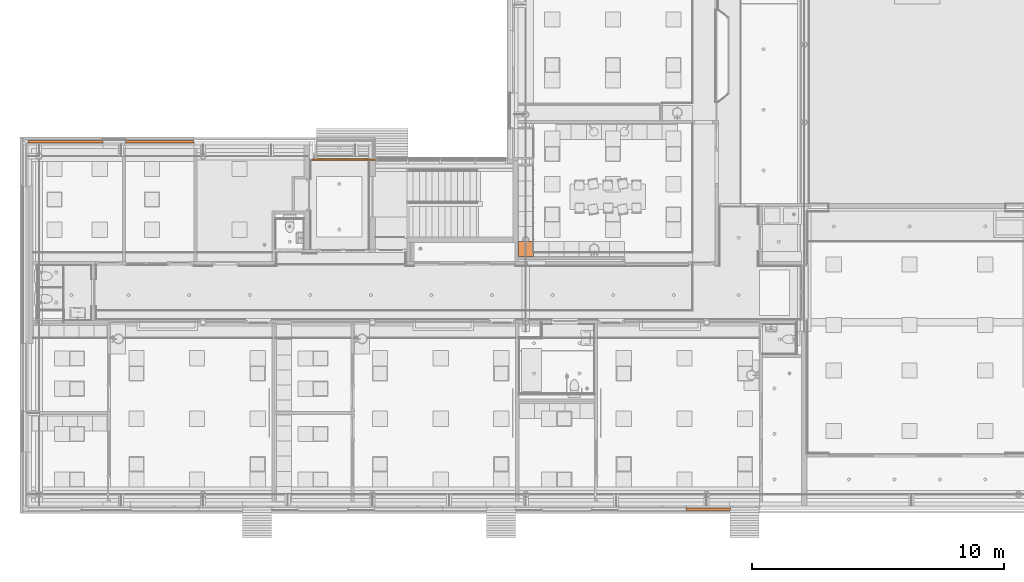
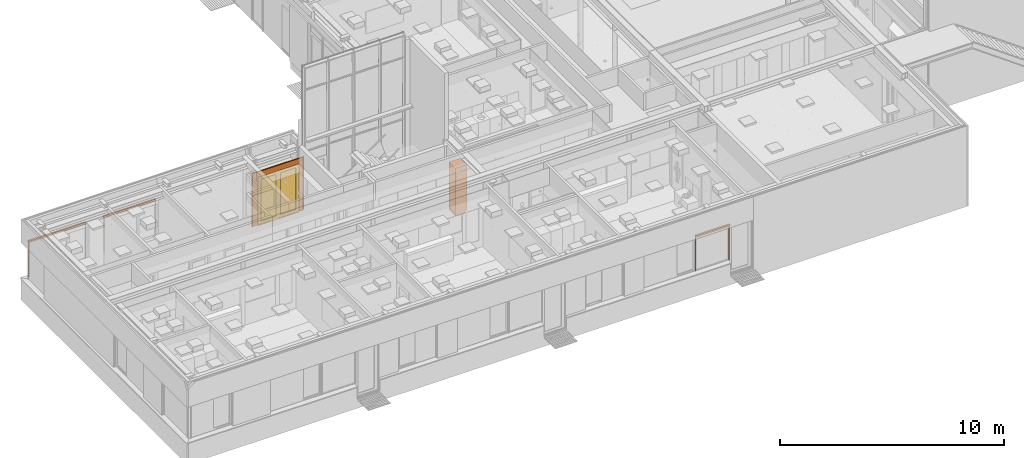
# One storey, part 339 of 347: 5 proxies, 1 door, 1 opening.
"""IFC2X3 building model written with IfcOpenShell, lengths in millimetres."""

import ifcopenshell
import ifcopenshell.guid

model = None  # the IFC model being written
_history = None  # IfcOwnerHistory: only IFC2X3 demands one
_inside = {}  # id of a spatial element -> (the spatial element, [elements in it])
_under = {}  # id of a project, library or spatial element -> (it, [spatial elements below it])
_declared = {}  # id of a project -> (the project, [libraries it declares])
_typed = {}  # id of a type object -> (the type object, [elements of that type])
_made_of = {}  # id of a material, layer set ... -> (it, [elements and type objects made of it])


def new_model(schema):
    """Start an empty IFC model of exactly this schema.

    Asked for "IFC4X3", IfcOpenShell would pick the latest addendum, in which some entities
    have other attributes; the version numbers below select the first issue.
    IFC2X3 requires an IfcOwnerHistory on every rooted entity: one is made here for all.
    """
    global model, _history
    if schema == "IFC4X3":
        model = ifcopenshell.file(schema_version=(4, 3, 0, 0))
    else:
        model = ifcopenshell.file(schema=schema)
    _inside.clear()
    _under.clear()
    _declared.clear()
    _typed.clear()
    _made_of.clear()
    _history = None
    if model.schema == "IFC2X3":
        org = make("IfcOrganization", Name="unknown")
        user = make(
            "IfcPersonAndOrganization",
            ThePerson=make("IfcPerson", FamilyName="unknown"),
            TheOrganization=org,
        )
        app = make(
            "IfcApplication",
            ApplicationDeveloper=org,
            Version="unknown",
            ApplicationFullName="unknown",
            ApplicationIdentifier="unknown",
        )
        _history = make(
            "IfcOwnerHistory",
            OwningUser=user,
            OwningApplication=app,
            ChangeAction="ADDED",
            CreationDate=0,
        )
    return model


def make(cls, **values):
    """One entity of the class cls with the attributes given. An attribute that is None is left unset."""
    return model.create_entity(
        cls, **{name: value for name, value in values.items() if value is not None}
    )


def entity(cls, *values):
    """Any entity or typed value of the class cls, its attributes in the order of the schema. None: left unset."""
    e = model.create_entity(cls)
    for i, value in enumerate(values):
        if value is not None:
            e[i] = value
    return e


def rooted(cls, **values):
    """An entity with a GlobalId (a new one), such as an element, a storey or a relation."""
    return make(cls, GlobalId=ifcopenshell.guid.new(), OwnerHistory=_history, **values)


def si_unit(unit_type, name, prefix=None):
    """IfcSIUnit, for example si_unit("LENGTHUNIT", "METRE", prefix="MILLI")."""
    return make("IfcSIUnit", UnitType=unit_type, Prefix=prefix, Name=name)


def converted_unit(unit_type, name, factor, base, dimensions=None, offset=None):
    """IfcConversionBasedUnit, such as the inch: factor (a typed value) times the base unit."""
    return make(
        "IfcConversionBasedUnit"
        if offset is None
        else "IfcConversionBasedUnitWithOffset",
        ConversionOffset=offset,
        Dimensions=None
        if dimensions is None
        else entity("IfcDimensionalExponents", *dimensions),
        UnitType=unit_type,
        Name=name,
        ConversionFactor=make(
            "IfcMeasureWithUnit", ValueComponent=factor, UnitComponent=base
        ),
    )


def derived_unit(unit_type, elements):
    """IfcDerivedUnit: a product of units, each with its exponent."""
    return make(
        "IfcDerivedUnit",
        Elements=[
            make("IfcDerivedUnitElement", Unit=unit, Exponent=power)
            for unit, power in elements
        ],
        UnitType=unit_type,
    )


def money_unit(currency):
    """IfcMonetaryUnit."""
    return make("IfcMonetaryUnit", Currency=currency)


def assignment(units):
    """IfcUnitAssignment: the units of a project."""
    return None if units is None else make("IfcUnitAssignment", Units=units)


def point(xyz):
    """IfcCartesianPoint."""
    return None if xyz is None else make("IfcCartesianPoint", Coordinates=xyz)


def direction(xyz):
    """IfcDirection."""
    return None if xyz is None else make("IfcDirection", DirectionRatios=xyz)


def frame(location, z_axis=None, x_axis=None):
    """IfcAxis2Placement3D, a coordinate frame: its origin and axes. An axis left out is left unset."""
    return make(
        "IfcAxis2Placement3D",
        Location=point(location),
        Axis=direction(z_axis),
        RefDirection=direction(x_axis),
    )


def origin_with_axes():
    """The frame at (0, 0, 0) with the z axis (0, 0, 1) and the x axis (1, 0, 0) written out."""
    return frame((0.0, 0.0, 0.0), z_axis=(0.0, 0.0, 1.0), x_axis=(1.0, 0.0, 0.0))


def place(relative_to, where):
    """IfcLocalPlacement: puts the frame where relative to a parent placement (None: the world)."""
    return make(
        "IfcLocalPlacement", PlacementRelTo=relative_to, RelativePlacement=where
    )


def context(
    kind, dimensions, precision=None, world=None, true_north=None, identifier=None
):
    """IfcGeometricRepresentationContext, for example the 3D "Model" context."""
    return make(
        "IfcGeometricRepresentationContext",
        ContextIdentifier=identifier,
        ContextType=kind,
        CoordinateSpaceDimension=dimensions,
        Precision=precision,
        WorldCoordinateSystem=world,
        TrueNorth=true_north,
    )


def subcontext(parent, identifier, kind, view, scale=None):
    """IfcGeometricRepresentationSubContext, for example "Body" below "Model"."""
    return make(
        "IfcGeometricRepresentationSubContext",
        ContextIdentifier=identifier,
        ContextType=kind,
        ParentContext=parent,
        TargetScale=scale,
        TargetView=view,
    )


def project(units=None, contexts=None):
    """IfcProject with its units and contexts."""
    return rooted(
        "IfcProject",
        Name="project",
        RepresentationContexts=contexts,
        UnitsInContext=assignment(units),
    )


def spatial(cls, under=None, at=None, **own):
    """A site, building, storey or space (cls), placed at a placement, below another one or the project."""
    s = rooted(cls, ObjectPlacement=at, **own)
    if under is not None:
        _under.setdefault(under.id(), (under, []))[1].append(s)
    return s


def faces_of(points, faces, orient=None, outer=None):
    """IfcFace entities. A face is a list of loops; a loop is a list of indices into points, from 0.

    orient and outer hold one flag for each loop. By default every Orientation is true, the
    first loop of a face is its IfcFaceOuterBound and the others are IfcFaceBound.
    """
    made = []
    for i, loops in enumerate(faces):
        bounds = []
        for j, loop in enumerate(loops):
            is_outer = j == 0 if outer is None else outer[i][j]
            bounds.append(
                make(
                    "IfcFaceOuterBound" if is_outer else "IfcFaceBound",
                    Bound=make("IfcPolyLoop", Polygon=[points[k] for k in loop]),
                    Orientation=True if orient is None else orient[i][j],
                )
            )
        made.append(make("IfcFace", Bounds=bounds))
    return made


def open_shell(faces, orient=None, outer=None):
    """The faces of one IfcOpenShell. surface_model builds it on its shared points."""
    return ("IfcOpenShell", faces, orient, outer)


def faceted_brep(points, faces, orient=None, outer=None, voids=None):
    """IfcFacetedBrep: a solid bounded by flat faces; with voids (closed shells), ...WithVoids."""
    shared = [point(p) for p in points]
    hull = make("IfcClosedShell", CfsFaces=faces_of(shared, faces, orient, outer))
    if voids is None:
        return make("IfcFacetedBrep", Outer=hull)
    return make(
        "IfcFacetedBrepWithVoids",
        Outer=hull,
        Voids=[
            make(cls, CfsFaces=faces_of(shared, fs, o, b)) for cls, fs, o, b in voids
        ],
    )


def surface_model(cls, points, shells):
    """IfcFaceBasedSurfaceModel or IfcShellBasedSurfaceModel (cls): surfaces that need not close."""
    shared = [point(p) for p in points]
    made = [make(c, CfsFaces=faces_of(shared, fs, o, b)) for c, fs, o, b in shells]
    if cls == "IfcFaceBasedSurfaceModel":
        return make(cls, FbsmFaces=made)
    return make(cls, SbsmBoundary=made)


def shape(context_of_items, identifier, shape_type, items):
    """IfcShapeRepresentation: the items that make up one representation, for example the "Body"."""
    return make(
        "IfcShapeRepresentation",
        ContextOfItems=context_of_items,
        RepresentationIdentifier=identifier,
        RepresentationType=shape_type,
        Items=items,
    )


def material(Name=None, Category=None):
    """IfcMaterial."""
    return make("IfcMaterial", Name=Name, Category=Category)


def made_of(thing, what):
    """Note that an element or type object is made of a material, layer set ...; save() writes the relation."""
    if what is not None:
        _made_of.setdefault(what.id(), (what, []))[1].append(thing)
    return thing


def type_object(cls, material=None, **own):
    """A type object (cls), such as IfcWallType, which elements share."""
    return made_of(rooted(cls, **own), material)


def element(
    cls,
    number,
    at=None,
    inside=None,
    cuts=None,
    type_object=None,
    material=None,
    context=None,
    identifier="Body",
    shape_type=None,
    held_by="IfcProductDefinitionShape",
    body=None,
    shapes=None,
    **own,
):
    """One element of the class cls, such as IfcWall. Its Tag is "e" and its number.

    at: its placement. inside: the storey or other place that contains it. cuts: it is an
    opening in that element (IfcRelVoidsElement). A single representation is given by context,
    identifier, shape_type and body (its items); several are given by shapes. held_by: the class
    of the entity that holds the representations. save() writes the other relations.
    """
    e = rooted(cls, Tag="e%d" % number, ObjectPlacement=at, **own)
    if body is not None:
        shapes = [shape(context, identifier, shape_type, body)]
    if shapes is not None:
        e.Representation = make(held_by, Representations=shapes)
    if inside is not None:
        _inside.setdefault(inside.id(), (inside, []))[1].append(e)
    if cuts is not None:
        rooted(
            "IfcRelVoidsElement", RelatingBuildingElement=cuts, RelatedOpeningElement=e
        )
    if type_object is not None:
        _typed.setdefault(type_object.id(), (type_object, []))[1].append(e)
    return made_of(e, material)


def fill(opening, filler):
    """IfcRelFillsElement: the door or window that sits in an opening."""
    return rooted(
        "IfcRelFillsElement",
        RelatingOpeningElement=opening,
        RelatedBuildingElement=filler,
    )


def aggregate(whole, parts):
    """IfcRelAggregates: a whole, such as a stair, and the parts it consists of."""
    return rooted("IfcRelAggregates", RelatingObject=whole, RelatedObjects=parts)


def save(model, path):
    """Write the relations noted so far, then the file.

    IfcRelAggregates (storeys below a building ...), IfcRelContainedInSpatialStructure (elements
    in a storey), IfcRelDefinesByType, IfcRelAssociatesMaterial and IfcRelDeclares: one each for
    every whole, place, type object, material and project.
    """
    for whole, parts in _under.values():
        aggregate(whole, parts)
    for where, things in _inside.values():
        rooted(
            "IfcRelContainedInSpatialStructure",
            RelatedElements=things,
            RelatingStructure=where,
        )
    for kind, things in _typed.values():
        rooted("IfcRelDefinesByType", RelatedObjects=things, RelatingType=kind)
    for what, things in _made_of.values():
        rooted("IfcRelAssociatesMaterial", RelatedObjects=things, RelatingMaterial=what)
    for by, libraries in _declared.values():
        rooted("IfcRelDeclares", RelatingContext=by, RelatedDefinitions=libraries)
    model.write(path)


model = new_model("IFC2X3")

# Units and contexts
model_context = context("Model", 3, precision=0.01, world=origin_with_axes(), true_north=direction((0.0, 1.0)))
plan_context = context("Plan", 3, precision=0.01, world=origin_with_axes(), true_north=direction((0.0, 1.0)))
body_context = subcontext(model_context, "Body", "Model", "MODEL_VIEW")
ifc_project = project(units=[si_unit("LENGTHUNIT", "METRE", prefix="MILLI"), si_unit("AREAUNIT", "SQUARE_METRE"), si_unit("VOLUMEUNIT", "CUBIC_METRE"), converted_unit("PLANEANGLEUNIT", "DEGREE", entity("IfcPlaneAngleMeasure", 0.0174532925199), si_unit("PLANEANGLEUNIT", "RADIAN"), dimensions=[0, 0, 0, 0, 0, 0, 0]), money_unit("EUR"), converted_unit("TIMEUNIT", "Year", entity("IfcTimeMeasure", 31556926.0), si_unit("TIMEUNIT", "SECOND"), dimensions=[0, 0, 1, 0, 0, 0, 0]), si_unit("MASSUNIT", "GRAM", prefix="KILO"), si_unit("THERMODYNAMICTEMPERATUREUNIT", "DEGREE_CELSIUS"), si_unit("LUMINOUSINTENSITYUNIT", "LUMEN"), si_unit("ENERGYUNIT", "JOULE", prefix="MEGA"), derived_unit("THERMALCONDUCTANCEUNIT", [(si_unit("POWERUNIT", "WATT"), 1), (si_unit("LENGTHUNIT", "METRE"), -1), (si_unit("THERMODYNAMICTEMPERATUREUNIT", "KELVIN"), -1)]), derived_unit("SPECIFICHEATCAPACITYUNIT", [(si_unit("ENERGYUNIT", "JOULE"), 1), (si_unit("MASSUNIT", "GRAM", prefix="KILO"), -1), (si_unit("THERMODYNAMICTEMPERATUREUNIT", "KELVIN"), -1)]), derived_unit("MASSDENSITYUNIT", [(si_unit("MASSUNIT", "GRAM", prefix="KILO"), 1), (si_unit("VOLUMEUNIT", "CUBIC_METRE"), -1)])], contexts=[model_context, plan_context])

# Site, building, storey
site_placement = place(None, origin_with_axes())
site = spatial("IfcSite", under=ifc_project, at=site_placement, Name="Site", CompositionType="ELEMENT")
building_placement = place(site_placement, origin_with_axes())
building = spatial("IfcBuilding", under=site, at=building_placement, Name="Naam gebouw", CompositionType="ELEMENT")
storey_placement = place(building_placement, origin_with_axes())
storey = spatial("IfcBuildingStorey", under=building, at=storey_placement, Name="begane grond", CompositionType="ELEMENT", Elevation=0.0)

# Proxy
building_element_proxy_type_1 = type_object("IfcBuildingElementProxyType", Name="Onderkast recht 25", PredefinedType="NOTDEFINED")
proxy_1_placement = place(storey_placement, frame((24295.0, 14725.0, 0.0), z_axis=(0.0, 0.0, 1.0), x_axis=(0.0, 1.0, 0.0)))
element("IfcBuildingElementProxy", 1, at=proxy_1_placement, inside=storey, type_object=building_element_proxy_type_1, Name="_73 pantryblok", context=body_context, shape_type="Brep", body=[
    faceted_brep([(0.0, -492.0, 2.0), (590.0, -492.0, 2.0), (590.0, -492.0, 100.0), (0.0, -492.0, 100.0), (590.0, 0.0, 2.0), (0.0, 0.0, 2.0), (590.0, 0.0, 100.0), (0.0, 0.0, 100.0)], [[[0, 1, 2, 3]], [[4, 1, 0, 5]], [[1, 4, 6, 2]], [[7, 3, 2, 6]], [[5, 0, 3, 7]], [[4, 5, 7, 6]]]),
    faceted_brep([(0.999999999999, -572.0, 101.0), (589.0, -572.0, 101.0), (589.0, -590.0, 101.0), (0.999999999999, -590.0, 101.0), (0.999999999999, -572.0, 2599.0), (589.0, -572.0, 2599.0), (589.0, -590.0, 2599.0), (0.999999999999, -590.0, 2599.0)], [[[0, 1, 2, 3]], [[0, 4, 5, 1]], [[1, 5, 6, 2]], [[3, 2, 6, 7]], [[4, 0, 3, 7]], [[5, 4, 7, 6]]]),
    faceted_brep([(18.0, -572.0, 100.0), (572.0, -572.0, 100.0), (572.0, -572.0, 118.0), (18.0, -572.0, 118.0), (18.0, 0.0, 100.0), (572.0, 0.0, 100.0), (572.0, 0.0, 118.0), (18.0, 0.0, 118.0)], [[[0, 1, 2, 3]], [[0, 4, 5, 1]], [[1, 5, 6, 2]], [[3, 2, 6, 7]], [[4, 0, 3, 7]], [[5, 4, 7, 6]]]),
    faceted_brep([(18.0, -572.0, 2582.0), (572.0, -572.0, 2582.0), (572.0, -572.0, 2600.0), (18.0, -572.0, 2600.0), (18.0, 0.0, 2582.0), (572.0, 0.0, 2582.0), (572.0, 0.0, 2600.0), (18.0, 0.0, 2600.0)], [[[0, 1, 2, 3]], [[0, 4, 5, 1]], [[1, 5, 6, 2]], [[3, 2, 6, 7]], [[4, 0, 3, 7]], [[5, 4, 7, 6]]]),
    faceted_brep([(0.0, 0.0, 100.0), (0.0, -572.0, 100.0), (0.0, -572.0, 2600.0), (0.0, 0.0, 2600.0), (18.0, 0.0, 100.0), (18.0, -572.0, 100.0), (18.0, -572.0, 2600.0), (18.0, 0.0, 2600.0)], [[[0, 1, 2, 3]], [[0, 4, 5, 1]], [[1, 5, 6, 2]], [[3, 2, 6, 7]], [[4, 0, 3, 7]], [[5, 4, 7, 6]]]),
    faceted_brep([(590.0, -572.0, 100.0), (590.0, 0.0, 100.0), (590.0, 0.0, 2600.0), (590.0, -572.0, 2600.0), (572.0, -572.0, 100.0), (572.0, 0.0, 100.0), (572.0, 0.0, 2600.0), (572.0, -572.0, 2600.0)], [[[0, 1, 2, 3]], [[0, 4, 5, 1]], [[1, 5, 6, 2]], [[3, 2, 6, 7]], [[4, 0, 3, 7]], [[5, 4, 7, 6]]]),
    faceted_brep([(572.0, -9.0, 118.0), (18.0, -9.0, 118.0), (18.0, -9.0, 2582.0), (572.0, -9.0, 2582.0), (572.0, -18.0, 118.0), (18.0, -18.0, 118.0), (18.0, -18.0, 2582.0), (572.0, -18.0, 2582.0)], [[[0, 1, 2, 3]], [[0, 4, 5, 1]], [[1, 5, 6, 2]], [[3, 2, 6, 7]], [[4, 0, 3, 7]], [[5, 4, 7, 6]]]),
])

# Proxy, opening, door
ifc_material = material(Name="ALG - BUITENAFWERKING")
building_element_proxy_type_2 = type_object("IfcBuildingElementProxyType", Name="ALG - BUITENAFWERKING 60", PredefinedType="NOTDEFINED")
proxy_2_placement = place(storey_placement, frame((15795.0, 18593.0000009, 0.0), z_axis=(0.0, 0.0, 1.0), x_axis=(1.0, -5.94636992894e-10, 0.0)))
proxy_2 = element("IfcBuildingElementProxy", 2, at=proxy_2_placement, inside=storey, type_object=building_element_proxy_type_2, material=ifc_material, Name="42_53 wandtegels keramisch", context=body_context, shape_type="Brep", body=[
    faceted_brep([(500.000065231, 2.97319502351e-07, 2600.0), (500.000065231, 2.97319502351e-07, 0.0), (210.0, 1.24874333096e-07, 0.0), (210.0, 1.24874333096e-07, 2900.0), (2844.99999903, 1.69174185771e-06, 2900.0), (2844.99999903, 1.69174185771e-06, 0.0), (2619.99999996, 1.55795021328e-06, 0.0), (2619.99999996, 1.55795021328e-06, 2600.0), (500.000065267, -59.9999997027, 2600.0), (500.000065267, -59.9999997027, 0.0), (210.000000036, -59.9999998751, 0.0), (210.000000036, -59.9999998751, 2900.0), (2830.00000004, -59.9999983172, 2900.0), (2830.00000003, -42.9999993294, 2900.0), (2844.99999906, -42.9999993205, 2900.0), (2844.99999906, -42.9999993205, 0.0), (2620.0, -59.999998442, 0.0), (2830.00000003, -42.9999993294, 0.0), (2830.00000004, -59.9999983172, 0.0), (2620.0, -59.999998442, 2600.0)], [[[0, 1, 2, 3, 4, 5, 6, 7]], [[1, 0, 8, 9]], [[1, 9, 10, 2]], [[10, 11, 3, 2]], [[4, 3, 11, 12, 13, 14]], [[5, 4, 14, 15]], [[16, 6, 5, 15, 17, 18]], [[7, 6, 16, 19]], [[0, 7, 19, 8]], [[19, 16, 18, 12, 11, 10, 9, 8]], [[13, 12, 18, 17]], [[14, 13, 17, 15]]]),
    faceted_brep([(2881.99999997, 1.71374381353e-06, 2900.0), (2864.99999881, 1.70363634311e-06, 2900.0), (2864.99999883, -42.9999993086, 2900.0), (2880.00000107, -42.9999992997, 2900.0), (2880.00000108, -59.9999982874, 2900.0), (2882.00000001, -59.9999982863, 2900.0), (2881.99999997, 1.71374381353e-06, 0.0), (2864.99999881, 1.70363634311e-06, 0.0), (2864.99999883, -42.9999993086, 0.0), (2880.00000107, -42.9999992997, 0.0), (2880.00000108, -59.9999982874, 0.0), (2882.00000001, -59.9999982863, 0.0)], [[[0, 1, 2, 3, 4, 5]], [[6, 7, 1, 0]], [[8, 2, 1, 7]], [[9, 3, 2, 8]], [[10, 4, 3, 9]], [[5, 4, 10, 11]], [[6, 0, 5, 11]], [[9, 8, 7, 6, 11, 10]]]),
])
opening_placement = place(proxy_2_placement, frame((1560.00003263, 0.0, -40.0), z_axis=(0.0, 0.0, 1.0), x_axis=(1.0, 0.0, 0.0)))
opening = element("IfcOpeningElement", 3, at=opening_placement, cuts=proxy_2, Name="31_merk-AU", context=body_context, shape_type="Brep", body=[
    faceted_brep([(-1059.99996748, 131.99999937, 2640.0), (-1059.99996748, 131.99999937, 0.0), (-1059.99996737, -60.0000006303, 0.0), (-1059.99996737, -60.0000006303, 2640.0), (1059.99996725, 132.00000063, 2640.0), (1059.99996725, 132.00000063, 0.0), (1059.99996737, -59.9999993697, 0.0), (1059.99996737, -59.9999993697, 2640.0)], [[[0, 1, 2, 3]], [[0, 4, 5, 1]], [[1, 5, 6, 2]], [[3, 2, 6, 7]], [[4, 0, 3, 7]], [[5, 4, 7, 6]]]),
])
door_style = type_object("IfcDoorStyle", Name="D2 25", ConstructionType="NOTDEFINED", OperationType="DOUBLE_DOOR_SINGLE_SWING", ParameterTakesPrecedence=False, Sizeable=False)
door_placement = place(opening_placement, frame((-1059.99996737, 0.0, 0.0), z_axis=(0.0, 0.0, 1.0), x_axis=(1.0, 0.0, 0.0)))
door = element("IfcDoor", 4, at=door_placement, inside=storey, type_object=door_style, Name="31_merk-AU", ObjectType="DOOR", OverallHeight=2640.0, OverallWidth=2120.0, context=body_context, shape_type="SurfaceModel", body=[
    faceted_brep([(2068.99993473, -49.9999984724, 48.0), (2068.99993469, 12.0000015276, 48.0), (50.9999999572, 12.0000003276, 48.0), (50.9999999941, -49.9999996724, 48.0), (67.9999999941, -49.9999996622, 48.0), (68.0, -59.9999996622, 48.0), (2051.99993473, -59.9999984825, 48.0), (2051.99993473, -49.9999984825, 48.0), (2068.99993473, -49.9999984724, 0.0), (2068.99993469, 12.0000015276, 0.0), (50.9999999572, 12.0000003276, 0.0), (50.9999999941, -49.9999996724, 0.0), (67.9999999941, -49.9999996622, 0.0), (68.0, -59.9999996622, 0.0), (2051.99993473, -59.9999984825, 0.0), (2051.99993473, -49.9999984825, 0.0)], [[[0, 1, 2, 3, 4, 5, 6, 7]], [[8, 9, 1, 0]], [[9, 10, 2, 1]], [[11, 3, 2, 10]], [[3, 11, 12, 4]], [[5, 4, 12, 13]], [[6, 5, 13, 14]], [[14, 15, 7, 6]], [[7, 15, 8, 0]], [[15, 14, 13, 12, 11, 10, 9, 8]]]),
    faceted_brep([(2051.99993473, -49.9999984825, 0.0), (2051.99993473, -59.9999984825, 0.0), (2051.99993473, -59.9999984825, 2572.0), (2051.99993473, -49.9999984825, 2572.0), (2068.99993473, -49.9999984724, 0.0), (2068.99993469, 12.0000015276, 0.0), (2119.99993469, 12.000001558, 0.0), (2119.99993473, -59.999998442, 0.0), (2119.99993473, -59.999998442, 2572.0), (2068.99993473, -49.9999984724, 2572.0), (2119.99993469, 12.000001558, 2572.0), (2068.99993469, 12.0000015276, 2572.0)], [[[0, 1, 2, 3]], [[4, 5, 6, 7, 1, 0]], [[1, 7, 8, 2]], [[9, 3, 2, 8, 10, 11]], [[9, 4, 0, 3]], [[11, 5, 4, 9]], [[11, 10, 6, 5]], [[6, 10, 8, 7]]]),
    faceted_brep([(50.9999999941, -49.9999996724, 2572.0), (50.9999999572, 12.0000003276, 2572.0), (-4.28137525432e-08, 12.0000002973, 2572.0), (0.0, -59.9999997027, 2572.0), (68.0, -59.9999996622, 2572.0), (67.9999999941, -49.9999996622, 2572.0), (50.9999999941, -49.9999996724, 0.0), (50.9999999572, 12.0000003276, 0.0), (-4.28137525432e-08, 12.0000002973, 0.0), (0.0, -59.9999997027, 0.0), (68.0, -59.9999996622, 0.0), (67.9999999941, -49.9999996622, 0.0)], [[[0, 1, 2, 3, 4, 5]], [[0, 6, 7, 1]], [[7, 8, 2, 1]], [[2, 8, 9, 3]], [[3, 9, 10, 4]], [[5, 4, 10, 11]], [[5, 11, 6, 0]], [[6, 11, 10, 9, 8, 7]]]),
    faceted_brep([(2068.99993469, 12.0000015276, 2589.0), (50.9999999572, 12.0000003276, 2589.0), (50.9999999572, 12.0000003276, 2572.0), (-4.28137525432e-08, 12.0000002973, 2572.0), (-4.28137525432e-08, 12.0000002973, 2640.0), (2119.99993469, 12.000001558, 2640.0), (2119.99993469, 12.000001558, 2572.0), (2068.99993469, 12.0000015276, 2572.0), (2068.99993473, -49.9999984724, 2589.0), (50.9999999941, -49.9999996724, 2589.0), (50.9999999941, -49.9999996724, 2572.0), (67.9999999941, -49.9999996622, 2572.0), (68.0, -59.9999996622, 2572.0), (0.0, -59.9999997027, 2572.0), (0.0, -59.9999997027, 2640.0), (2119.99993473, -59.999998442, 2640.0), (2119.99993473, -59.999998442, 2572.0), (2068.99993473, -49.9999984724, 2572.0), (2051.99993473, -59.9999984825, 2572.0), (2051.99993473, -49.9999984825, 2572.0)], [[[0, 1, 2, 3, 4, 5, 6, 7]], [[0, 8, 9, 1]], [[1, 9, 10, 2]], [[10, 11, 12, 13, 3, 2]], [[4, 3, 13, 14]], [[5, 4, 14, 15]], [[6, 5, 15, 16]], [[17, 7, 6, 16, 18, 19]], [[7, 17, 8, 0]], [[10, 9, 8, 17, 19, 11]], [[19, 18, 12, 11]], [[12, 18, 16, 15, 14, 13]]]),
    faceted_brep([(50.9999999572, 12.0000003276, 198.0), (160.999999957, 12.0000003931, 198.0), (160.999999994, -49.9999996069, 198.0), (50.9999999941, -49.9999996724, 198.0), (50.9999999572, 12.0000003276, 2479.0), (160.999999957, 12.0000003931, 2479.0), (160.999999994, -49.9999996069, 2479.0), (50.9999999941, -49.9999996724, 2479.0)], [[[0, 1, 2, 3]], [[0, 4, 5, 1]], [[1, 5, 6, 2]], [[3, 2, 6, 7]], [[4, 0, 3, 7]], [[5, 4, 7, 6]]]),
    faceted_brep([(1059.99996732, 12.0000009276, 198.0), (1059.99996732, 12.0000009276, 2479.0), (1059.99996736, -49.9999990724, 2479.0), (1059.99996736, -49.9999990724, 198.0), (949.999967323, 12.0000008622, 198.0), (949.999967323, 12.0000008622, 2479.0), (949.99996736, -49.9999991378, 2479.0), (949.99996736, -49.9999991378, 198.0)], [[[0, 1, 2, 3]], [[0, 4, 5, 1]], [[1, 5, 6, 2]], [[3, 2, 6, 7]], [[4, 0, 3, 7]], [[5, 4, 7, 6]]]),
    faceted_brep([(50.9999999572, 12.0000003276, 48.0), (1059.99996732, 12.0000009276, 48.0), (1059.99996736, -49.9999990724, 48.0), (50.9999999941, -49.9999996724, 48.0), (50.9999999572, 12.0000003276, 198.0), (160.999999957, 12.0000003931, 198.0), (949.999967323, 12.0000008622, 198.0), (1059.99996732, 12.0000009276, 198.0), (1059.99996736, -49.9999990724, 198.0), (949.99996736, -49.9999991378, 198.0), (160.999999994, -49.9999996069, 198.0), (50.9999999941, -49.9999996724, 198.0)], [[[0, 1, 2, 3]], [[0, 4, 5, 6, 7, 1]], [[1, 7, 8, 2]], [[3, 2, 8, 9, 10, 11]], [[4, 0, 3, 11]], [[5, 4, 11, 10]], [[6, 5, 10, 9]], [[7, 6, 9, 8]]]),
    faceted_brep([(50.9999999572, 12.0000003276, 2589.0), (50.9999999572, 12.0000003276, 2479.0), (50.9999999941, -49.9999996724, 2479.0), (50.9999999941, -49.9999996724, 2589.0), (1059.99996732, 12.0000009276, 2589.0), (1059.99996732, 12.0000009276, 2479.0), (949.999967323, 12.0000008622, 2479.0), (160.999999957, 12.0000003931, 2479.0), (160.999999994, -49.9999996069, 2479.0), (949.99996736, -49.9999991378, 2479.0), (1059.99996736, -49.9999990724, 2479.0), (1059.99996736, -49.9999990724, 2589.0)], [[[0, 1, 2, 3]], [[0, 4, 5, 6, 7, 1]], [[1, 7, 8, 2]], [[3, 2, 8, 9, 10, 11]], [[4, 0, 3, 11]], [[5, 4, 11, 10]], [[6, 5, 10, 9]], [[7, 6, 9, 8]]]),
    surface_model("IfcShellBasedSurfaceModel", [(160.999999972, -12.9999996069, 198.0), (160.999999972, -12.9999996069, 2479.0), (949.999967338, -12.9999991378, 2479.0), (949.999967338, -12.9999991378, 198.0)], [open_shell([[[0, 1, 2, 3]]])]),
    surface_model("IfcShellBasedSurfaceModel", [(160.999999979, -24.9999996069, 198.0), (949.999967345, -24.9999991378, 198.0), (949.999967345, -24.9999991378, 2479.0), (160.999999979, -24.9999996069, 2479.0)], [open_shell([[[0, 1, 2, 3]]])]),
    faceted_brep([(2068.99993469, 12.0000015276, 198.0), (2068.99993473, -49.9999984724, 198.0), (1958.99993473, -49.9999985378, 198.0), (1958.99993469, 12.0000014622, 198.0), (2068.99993469, 12.0000015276, 2479.0), (2068.99993473, -49.9999984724, 2479.0), (1958.99993473, -49.9999985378, 2479.0), (1958.99993469, 12.0000014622, 2479.0)], [[[0, 1, 2, 3]], [[4, 5, 1, 0]], [[1, 5, 6, 2]], [[3, 2, 6, 7]], [[0, 3, 7, 4]], [[7, 6, 5, 4]]]),
    faceted_brep([(1059.99996732, 12.0000009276, 198.0), (1059.99996736, -49.9999990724, 198.0), (1059.99996736, -49.9999990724, 2479.0), (1059.99996732, 12.0000009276, 2479.0), (1169.99996732, 12.000000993, 198.0), (1169.99996736, -49.999999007, 198.0), (1169.99996736, -49.999999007, 2479.0), (1169.99996732, 12.000000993, 2479.0)], [[[0, 1, 2, 3]], [[4, 5, 1, 0]], [[1, 5, 6, 2]], [[3, 2, 6, 7]], [[0, 3, 7, 4]], [[7, 6, 5, 4]]]),
    faceted_brep([(2068.99993469, 12.0000015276, 48.0), (2068.99993473, -49.9999984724, 48.0), (1059.99996736, -49.9999990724, 48.0), (1059.99996732, 12.0000009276, 48.0), (2068.99993469, 12.0000015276, 198.0), (2068.99993473, -49.9999984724, 198.0), (1958.99993473, -49.9999985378, 198.0), (1169.99996736, -49.999999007, 198.0), (1059.99996736, -49.9999990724, 198.0), (1059.99996732, 12.0000009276, 198.0), (1169.99996732, 12.000000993, 198.0), (1958.99993469, 12.0000014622, 198.0)], [[[0, 1, 2, 3]], [[4, 5, 1, 0]], [[1, 5, 6, 7, 8, 2]], [[3, 2, 8, 9]], [[0, 3, 9, 10, 11, 4]], [[11, 6, 5, 4]], [[10, 7, 6, 11]], [[9, 8, 7, 10]]]),
    faceted_brep([(2068.99993469, 12.0000015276, 2589.0), (2068.99993473, -49.9999984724, 2589.0), (2068.99993473, -49.9999984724, 2479.0), (2068.99993469, 12.0000015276, 2479.0), (1059.99996732, 12.0000009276, 2589.0), (1059.99996736, -49.9999990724, 2589.0), (1059.99996736, -49.9999990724, 2479.0), (1169.99996736, -49.999999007, 2479.0), (1958.99993473, -49.9999985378, 2479.0), (1958.99993469, 12.0000014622, 2479.0), (1169.99996732, 12.000000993, 2479.0), (1059.99996732, 12.0000009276, 2479.0)], [[[0, 1, 2, 3]], [[4, 5, 1, 0]], [[1, 5, 6, 7, 8, 2]], [[3, 2, 8, 9]], [[0, 3, 9, 10, 11, 4]], [[11, 6, 5, 4]], [[10, 7, 6, 11]], [[9, 8, 7, 10]]]),
    surface_model("IfcShellBasedSurfaceModel", [(1958.9999347, -12.9999985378, 198.0), (1169.99996734, -12.999999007, 198.0), (1169.99996734, -12.999999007, 2479.0), (1958.9999347, -12.9999985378, 2479.0)], [open_shell([[[0, 1, 2, 3]]])]),
    surface_model("IfcShellBasedSurfaceModel", [(1958.99993471, -24.9999985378, 198.0), (1958.99993471, -24.9999985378, 2479.0), (1169.99996735, -24.999999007, 2479.0), (1169.99996735, -24.999999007, 198.0)], [open_shell([[[0, 1, 2, 3]]])]),
])
fill(opening, door)

# Proxies
building_element_proxy_type_3 = type_object("IfcBuildingElementProxyType", Name="Screen 25 KM", PredefinedType="NOTDEFINED")
proxy_3_placement = place(storey_placement, frame((32691.0, 4767.00002055, 720.0), z_axis=(0.0, 0.0, 1.0), x_axis=(1.0, 0.0, 0.0)))
element("IfcBuildingElementProxy", 5, at=proxy_3_placement, inside=storey, type_object=building_element_proxy_type_3, Name="_78 garderobe", context=body_context, shape_type="SurfaceModel", body=[
    faceted_brep([(0.0, 0.0, 0.0), (0.0, 0.0, 1885.0), (0.0, -28.0, 1885.0), (0.0, -28.0, 0.0), (-38.0, 0.0, 0.0), (-38.0, 0.0, 1885.0), (-38.0, -4.0, 1885.0), (-35.0, -4.0, 1885.0), (-35.0, -3.0, 1885.0), (-3.0, -3.0, 1885.0), (-3.0, -25.0, 1885.0), (-35.0, -25.0, 1885.0), (-35.0, -24.0, 1885.0), (-38.0, -24.0, 1885.0), (-38.0, -28.0, 1885.0), (-38.0, -28.0, 0.0), (-38.0, -24.0, 0.0), (-35.0, -24.0, 0.0), (-35.0, -25.0, 0.0), (-3.0, -25.0, 0.0), (-3.0, -3.0, 0.0), (-35.0, -3.0, 0.0), (-35.0, -4.0, 0.0), (-38.0, -4.0, 0.0)], [[[0, 1, 2, 3]], [[4, 5, 1, 0]], [[1, 5, 6, 7, 8, 9, 10, 11, 12, 13, 14, 2]], [[3, 2, 14, 15]], [[0, 3, 15, 16, 17, 18, 19, 20, 21, 22, 23, 4]], [[23, 6, 5, 4]], [[22, 7, 6, 23]], [[21, 8, 7, 22]], [[20, 9, 8, 21]], [[19, 10, 9, 20]], [[18, 11, 10, 19]], [[17, 12, 11, 18]], [[16, 13, 12, 17]], [[15, 14, 13, 16]]]),
    faceted_brep([(-1766.0, 0.0, 0.0), (-1766.0, -28.0, 0.0), (-1766.0, -28.0, 1885.0), (-1766.0, 0.0, 1885.0), (-1728.0, 0.0, 0.0), (-1728.0, -4.0, 0.0), (-1731.0, -4.0, 0.0), (-1731.0, -3.0, 0.0), (-1763.0, -3.0, 0.0), (-1763.0, -25.0, 0.0), (-1731.0, -25.0, 0.0), (-1731.0, -24.0, 0.0), (-1728.0, -24.0, 0.0), (-1728.0, -28.0, 0.0), (-1728.0, -28.0, 1885.0), (-1728.0, -24.0, 1885.0), (-1731.0, -24.0, 1885.0), (-1731.0, -25.0, 1885.0), (-1763.0, -25.0, 1885.0), (-1763.0, -3.0, 1885.0), (-1731.0, -3.0, 1885.0), (-1731.0, -4.0, 1885.0), (-1728.0, -4.0, 1885.0), (-1728.0, 0.0, 1885.0)], [[[0, 1, 2, 3]], [[0, 4, 5, 6, 7, 8, 9, 10, 11, 12, 13, 1]], [[1, 13, 14, 2]], [[3, 2, 14, 15, 16, 17, 18, 19, 20, 21, 22, 23]], [[4, 0, 3, 23]], [[5, 4, 23, 22]], [[6, 5, 22, 21]], [[7, 6, 21, 20]], [[8, 7, 20, 19]], [[9, 8, 19, 18]], [[10, 9, 18, 17]], [[11, 10, 17, 16]], [[12, 11, 16, 15]], [[13, 12, 15, 14]]]),
    surface_model("IfcShellBasedSurfaceModel", [(0.0, 0.0, 1980.0), (0.0, -95.0, 1980.0), (0.0, -95.0, 1885.0), (0.0, 0.0, 1885.0)], [open_shell([[[0, 1, 2, 3]]])]),
    surface_model("IfcShellBasedSurfaceModel", [(-0.01, 0.0, 1980.0), (-1765.99, 0.0, 1980.0), (-1765.99, -95.0, 1980.0), (-0.00999999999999, -95.0, 1980.0), (-0.01, 0.0, 1888.0), (-1765.99, 0.0, 1888.0), (-1765.99, -6.0, 1888.0), (-1765.99, -6.0, 1891.0), (-1765.99, -3.0, 1891.0), (-1765.99, -3.0, 1977.0), (-1765.99, -92.0, 1977.0), (-1765.99, -92.0, 1888.0), (-1765.99, -28.0, 1888.0), (-1765.99, -28.0, 1882.0), (-1765.99, -31.0, 1882.0), (-1765.99, -31.0, 1885.0), (-1765.99, -95.0, 1885.0), (-0.01, -95.0, 1885.0), (-0.01, -31.0, 1885.0), (-0.01, -31.0, 1882.0), (-0.01, -28.0, 1882.0), (-0.01, -28.0, 1888.0), (-0.01, -92.0, 1888.0), (-0.00999999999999, -92.0, 1977.0), (-0.01, -3.0, 1977.0), (-0.01, -3.0, 1891.0), (-0.01, -6.0, 1891.0), (-0.01, -6.0, 1888.0)], [open_shell([[[0, 1, 2, 3]], [[4, 5, 1, 0]], [[1, 5, 6, 7, 8, 9, 10, 11, 12, 13, 14, 15, 16, 2]], [[3, 2, 16, 17]], [[0, 3, 17, 18, 19, 20, 21, 22, 23, 24, 25, 26, 27, 4]], [[19, 14, 13, 20]], [[18, 15, 14, 19]], [[17, 16, 15, 18]]])]),
    surface_model("IfcShellBasedSurfaceModel", [(-1765.99, 0.0, 1980.0), (-1765.99, -95.0, 1980.0), (-1765.99, -95.0, 1885.0), (-1765.99, 0.0, 1885.0)], [open_shell([[[0, 1, 2, 3]]])]),
])
proxy_4_placement = place(storey_placement, frame((4850.0, 19233.0, 720.0), z_axis=(0.0, 0.0, 1.0), x_axis=(-1.0, 0.0, 0.0)))
element("IfcBuildingElementProxy", 6, at=proxy_4_placement, inside=storey, type_object=building_element_proxy_type_3, Name="_78 garderobe", context=body_context, shape_type="SurfaceModel", body=[
    faceted_brep([(0.0, 0.0, 0.0), (0.0, 0.0, 1885.0), (0.0, -28.0, 1885.0), (0.0, -28.0, 0.0), (-38.0, 0.0, 0.0), (-38.0, 0.0, 1885.0), (-38.0, -4.0, 1885.0), (-35.0, -4.0, 1885.0), (-35.0, -3.0, 1885.0), (-3.0, -3.0, 1885.0), (-3.0, -25.0, 1885.0), (-35.0, -25.0, 1885.0), (-35.0, -24.0, 1885.0), (-38.0, -24.0, 1885.0), (-38.0, -28.0, 1885.0), (-38.0, -28.0, 0.0), (-38.0, -24.0, 0.0), (-35.0, -24.0, 0.0), (-35.0, -25.0, 0.0), (-3.0, -25.0, 0.0), (-3.0, -3.0, 0.0), (-35.0, -3.0, 0.0), (-35.0, -4.0, 0.0), (-38.0, -4.0, 0.0)], [[[0, 1, 2, 3]], [[4, 5, 1, 0]], [[1, 5, 6, 7, 8, 9, 10, 11, 12, 13, 14, 2]], [[3, 2, 14, 15]], [[0, 3, 15, 16, 17, 18, 19, 20, 21, 22, 23, 4]], [[23, 6, 5, 4]], [[22, 7, 6, 23]], [[21, 8, 7, 22]], [[20, 9, 8, 21]], [[19, 10, 9, 20]], [[18, 11, 10, 19]], [[17, 12, 11, 18]], [[16, 13, 12, 17]], [[15, 14, 13, 16]]]),
    faceted_brep([(-2975.00271385, 0.0, 0.0), (-2975.00271385, -28.0, 0.0), (-2975.00271385, -28.0, 1885.0), (-2975.00271385, 0.0, 1885.0), (-2937.00271385, 0.0, 0.0), (-2937.00271385, -4.0, 0.0), (-2940.00271385, -4.0, 0.0), (-2940.00271385, -3.0, 0.0), (-2972.00271385, -3.0, 0.0), (-2972.00271385, -25.0, 0.0), (-2940.00271385, -25.0, 0.0), (-2940.00271385, -24.0, 0.0), (-2937.00271385, -24.0, 0.0), (-2937.00271385, -28.0, 0.0), (-2937.00271385, -28.0, 1885.0), (-2937.00271385, -24.0, 1885.0), (-2940.00271385, -24.0, 1885.0), (-2940.00271385, -25.0, 1885.0), (-2972.00271385, -25.0, 1885.0), (-2972.00271385, -3.0, 1885.0), (-2940.00271385, -3.0, 1885.0), (-2940.00271385, -4.0, 1885.0), (-2937.00271385, -4.0, 1885.0), (-2937.00271385, 0.0, 1885.0)], [[[0, 1, 2, 3]], [[0, 4, 5, 6, 7, 8, 9, 10, 11, 12, 13, 1]], [[1, 13, 14, 2]], [[3, 2, 14, 15, 16, 17, 18, 19, 20, 21, 22, 23]], [[4, 0, 3, 23]], [[5, 4, 23, 22]], [[6, 5, 22, 21]], [[7, 6, 21, 20]], [[8, 7, 20, 19]], [[9, 8, 19, 18]], [[10, 9, 18, 17]], [[11, 10, 17, 16]], [[12, 11, 16, 15]], [[13, 12, 15, 14]]]),
    surface_model("IfcShellBasedSurfaceModel", [(0.0, 0.0, 1980.0), (0.0, -95.0, 1980.0), (0.0, -95.0, 1885.0), (0.0, 0.0, 1885.0)], [open_shell([[[0, 1, 2, 3]]])]),
    surface_model("IfcShellBasedSurfaceModel", [(-0.01, 0.0, 1980.0), (-2974.99271385, 0.0, 1980.0), (-2974.99271385, -95.0, 1980.0), (-0.00999999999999, -95.0, 1980.0), (-0.01, 0.0, 1888.0), (-2974.99271385, 0.0, 1888.0), (-2974.99271385, -6.0, 1888.0), (-2974.99271385, -6.0, 1891.0), (-2974.99271385, -3.0, 1891.0), (-2974.99271385, -3.0, 1977.0), (-2974.99271385, -92.0, 1977.0), (-2974.99271385, -92.0, 1888.0), (-2974.99271385, -28.0, 1888.0), (-2974.99271385, -28.0, 1882.0), (-2974.99271385, -31.0, 1882.0), (-2974.99271385, -31.0, 1885.0), (-2974.99271385, -95.0, 1885.0), (-0.01, -95.0, 1885.0), (-0.01, -31.0, 1885.0), (-0.01, -31.0, 1882.0), (-0.01, -28.0, 1882.0), (-0.01, -28.0, 1888.0), (-0.01, -92.0, 1888.0), (-0.00999999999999, -92.0, 1977.0), (-0.01, -3.0, 1977.0), (-0.01, -3.0, 1891.0), (-0.01, -6.0, 1891.0), (-0.01, -6.0, 1888.0)], [open_shell([[[0, 1, 2, 3]], [[4, 5, 1, 0]], [[1, 5, 6, 7, 8, 9, 10, 11, 12, 13, 14, 15, 16, 2]], [[3, 2, 16, 17]], [[0, 3, 17, 18, 19, 20, 21, 22, 23, 24, 25, 26, 27, 4]], [[19, 14, 13, 20]], [[18, 15, 14, 19]], [[17, 16, 15, 18]]])]),
    surface_model("IfcShellBasedSurfaceModel", [(-2974.99271385, 0.0, 1980.0), (-2974.99271385, -95.0, 1980.0), (-2974.99271385, -95.0, 1885.0), (-2974.99271385, 0.0, 1885.0)], [open_shell([[[0, 1, 2, 3]]])]),
])
proxy_5_placement = place(storey_placement, frame((8725.00271367, 19233.0, 720.0), z_axis=(0.0, 0.0, 1.0), x_axis=(-1.0, 0.0, 0.0)))
element("IfcBuildingElementProxy", 7, at=proxy_5_placement, inside=storey, type_object=building_element_proxy_type_3, Name="_78 garderobe", context=body_context, shape_type="SurfaceModel", body=[
    faceted_brep([(0.0, 0.0, 0.0), (0.0, 0.0, 1885.0), (0.0, -28.0, 1885.0), (0.0, -28.0, 0.0), (-38.0, 0.0, 0.0), (-38.0, 0.0, 1885.0), (-38.0, -4.0, 1885.0), (-35.0, -4.0, 1885.0), (-35.0, -3.0, 1885.0), (-3.0, -3.0, 1885.0), (-3.0, -25.0, 1885.0), (-35.0, -25.0, 1885.0), (-35.0, -24.0, 1885.0), (-38.0, -24.0, 1885.0), (-38.0, -28.0, 1885.0), (-38.0, -28.0, 0.0), (-38.0, -24.0, 0.0), (-35.0, -24.0, 0.0), (-35.0, -25.0, 0.0), (-3.0, -25.0, 0.0), (-3.0, -3.0, 0.0), (-35.0, -3.0, 0.0), (-35.0, -4.0, 0.0), (-38.0, -4.0, 0.0)], [[[0, 1, 2, 3]], [[4, 5, 1, 0]], [[1, 5, 6, 7, 8, 9, 10, 11, 12, 13, 14, 2]], [[3, 2, 14, 15]], [[0, 3, 15, 16, 17, 18, 19, 20, 21, 22, 23, 4]], [[23, 6, 5, 4]], [[22, 7, 6, 23]], [[21, 8, 7, 22]], [[20, 9, 8, 21]], [[19, 10, 9, 20]], [[18, 11, 10, 19]], [[17, 12, 11, 18]], [[16, 13, 12, 17]], [[15, 14, 13, 16]]]),
    faceted_brep([(-2699.99728619, 0.0, 0.0), (-2699.99728619, -28.0, 0.0), (-2699.99728619, -28.0, 1885.0), (-2699.99728619, 0.0, 1885.0), (-2661.99728619, 0.0, 0.0), (-2661.99728619, -4.0, 0.0), (-2664.99728619, -4.0, 0.0), (-2664.99728619, -3.0, 0.0), (-2696.99728619, -3.0, 0.0), (-2696.99728619, -25.0, 0.0), (-2664.99728619, -25.0, 0.0), (-2664.99728619, -24.0, 0.0), (-2661.99728619, -24.0, 0.0), (-2661.99728619, -28.0, 0.0), (-2661.99728619, -28.0, 1885.0), (-2661.99728619, -24.0, 1885.0), (-2664.99728619, -24.0, 1885.0), (-2664.99728619, -25.0, 1885.0), (-2696.99728619, -25.0, 1885.0), (-2696.99728619, -3.0, 1885.0), (-2664.99728619, -3.0, 1885.0), (-2664.99728619, -4.0, 1885.0), (-2661.99728619, -4.0, 1885.0), (-2661.99728619, 0.0, 1885.0)], [[[0, 1, 2, 3]], [[0, 4, 5, 6, 7, 8, 9, 10, 11, 12, 13, 1]], [[1, 13, 14, 2]], [[3, 2, 14, 15, 16, 17, 18, 19, 20, 21, 22, 23]], [[4, 0, 3, 23]], [[5, 4, 23, 22]], [[6, 5, 22, 21]], [[7, 6, 21, 20]], [[8, 7, 20, 19]], [[9, 8, 19, 18]], [[10, 9, 18, 17]], [[11, 10, 17, 16]], [[12, 11, 16, 15]], [[13, 12, 15, 14]]]),
    surface_model("IfcShellBasedSurfaceModel", [(0.0, 0.0, 1980.0), (0.0, -95.0, 1980.0), (0.0, -95.0, 1885.0), (0.0, 0.0, 1885.0)], [open_shell([[[0, 1, 2, 3]]])]),
    surface_model("IfcShellBasedSurfaceModel", [(-0.01, 0.0, 1980.0), (-2699.98728619, 0.0, 1980.0), (-2699.98728619, -95.0, 1980.0), (-0.00999999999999, -95.0, 1980.0), (-0.01, 0.0, 1888.0), (-2699.98728619, 0.0, 1888.0), (-2699.98728619, -6.0, 1888.0), (-2699.98728619, -6.0, 1891.0), (-2699.98728619, -3.0, 1891.0), (-2699.98728619, -3.0, 1977.0), (-2699.98728619, -92.0, 1977.0), (-2699.98728619, -92.0, 1888.0), (-2699.98728619, -28.0, 1888.0), (-2699.98728619, -28.0, 1882.0), (-2699.98728619, -31.0, 1882.0), (-2699.98728619, -31.0, 1885.0), (-2699.98728619, -95.0, 1885.0), (-0.01, -95.0, 1885.0), (-0.01, -31.0, 1885.0), (-0.01, -31.0, 1882.0), (-0.01, -28.0, 1882.0), (-0.01, -28.0, 1888.0), (-0.01, -92.0, 1888.0), (-0.00999999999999, -92.0, 1977.0), (-0.01, -3.0, 1977.0), (-0.01, -3.0, 1891.0), (-0.01, -6.0, 1891.0), (-0.01, -6.0, 1888.0)], [open_shell([[[0, 1, 2, 3]], [[4, 5, 1, 0]], [[1, 5, 6, 7, 8, 9, 10, 11, 12, 13, 14, 15, 16, 2]], [[3, 2, 16, 17]], [[0, 3, 17, 18, 19, 20, 21, 22, 23, 24, 25, 26, 27, 4]], [[19, 14, 13, 20]], [[18, 15, 14, 19]], [[17, 16, 15, 18]]])]),
    surface_model("IfcShellBasedSurfaceModel", [(-2699.98728619, 0.0, 1980.0), (-2699.98728619, -95.0, 1980.0), (-2699.98728619, -95.0, 1885.0), (-2699.98728619, 0.0, 1885.0)], [open_shell([[[0, 1, 2, 3]]])]),
])

save(model, "model.ifc")
